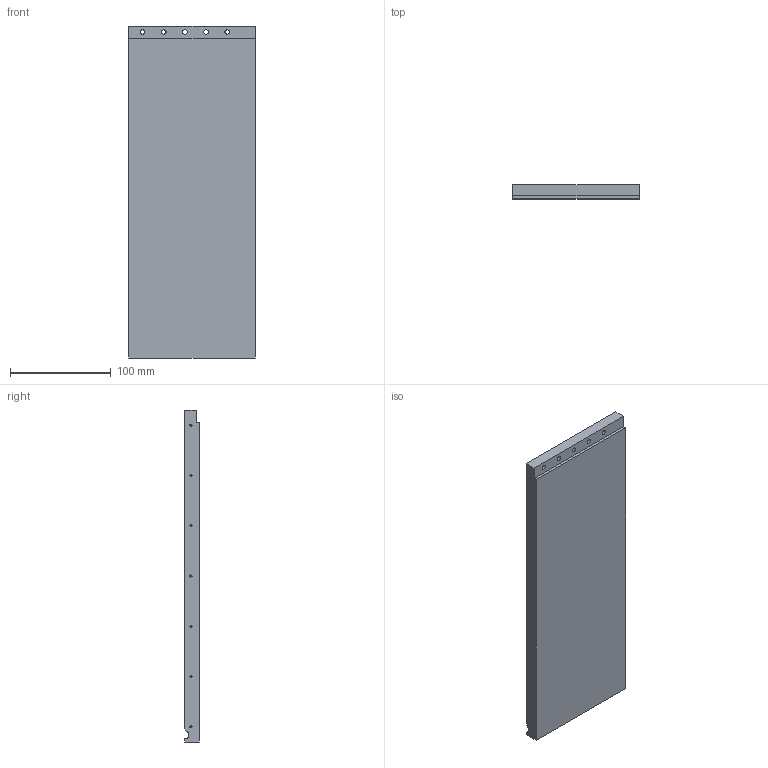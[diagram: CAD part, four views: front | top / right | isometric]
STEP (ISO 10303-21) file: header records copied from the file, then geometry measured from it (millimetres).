
FILE_DESCRIPTION(/* description */ (''),/* implementation_level */ '2;1');
FILE_NAME(/* name */ 'C:\Users\strothej\Documents\ActualDocuments\MicroscopeParts\TwoPhotonSystem\ScanningMechanics\v34\Drawings\Enclosure_Panel3.stp',/* time_stamp */ '2017-09-11T12:09:46-07:00',/* author */ ('strothej'),/* organization */ (''),/* preprocessor_version */ 'ST-DEVELOPER v16.1',/* originating_system */ 'Autodesk Inventor 2016',/* authorisation */ '');
FILE_SCHEMA (('AUTOMOTIVE_DESIGN { 1 0 10303 214 3 1 1 }'));
Length unit declared in the file: millimetre
Products named in the file (1): Enclosure_Panel3
Bounding box: 126 x 14 x 330 mm (x, y, z)
Volume: 569097.8 mm3; surface area: 100500.1 mm2
Topology: 1 solids, 1 shells, 74 faces, 177 edges, 110 vertices
Faces by surface type: cylinder 35, cone 24, plane 15
Full cylindrical faces by diameter (mm): 2.013 x7, 3.242 x5, 4.134 x12, 4.5 x5, 8 x5
Entity records: 1677 total; most frequent: DIRECTION 315, CARTESIAN_POINT 256, ORIENTED_EDGE 190, EDGE_LOOP 147, AXIS2_PLACEMENT_3D 145, EDGE_CURVE 95, VERTEX_POINT 86, FACE_OUTER_BOUND 74
